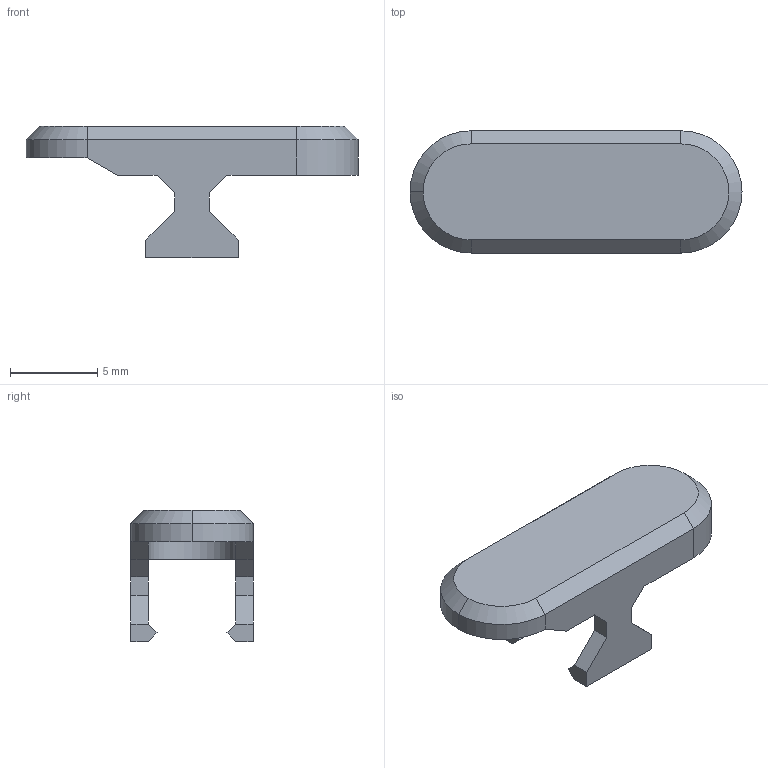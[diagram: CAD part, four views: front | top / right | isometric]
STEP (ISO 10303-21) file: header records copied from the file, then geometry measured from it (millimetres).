
FILE_DESCRIPTION (( 'STEP AP214' ), '1' );
FILE_NAME ('Lower Leg ArmorA1.STEP', '2023-12-26T21:06:35', ( '' ), ( '' ), 'SwSTEP 2.0', 'SolidWorks 2023', '' );
FILE_SCHEMA (( 'AUTOMOTIVE_DESIGN' ));
Length unit declared in the file: millimetre
Products named in the file (1): Lower Leg ArmorA1
Bounding box: 19 x 7 x 7.5 mm (x, y, z)
Volume: 275.1 mm3; surface area: 467.3 mm2
Topology: 1 solids, 1 shells, 42 faces, 109 edges, 69 vertices
Faces by surface type: plane 35, cylinder 4, cone 3
Entity records: 1279 total; most frequent: CARTESIAN_POINT 221, ORIENTED_EDGE 218, DIRECTION 206, EDGE_CURVE 109, LINE 98, VECTOR 98, VERTEX_POINT 69, AXIS2_PLACEMENT_3D 54
